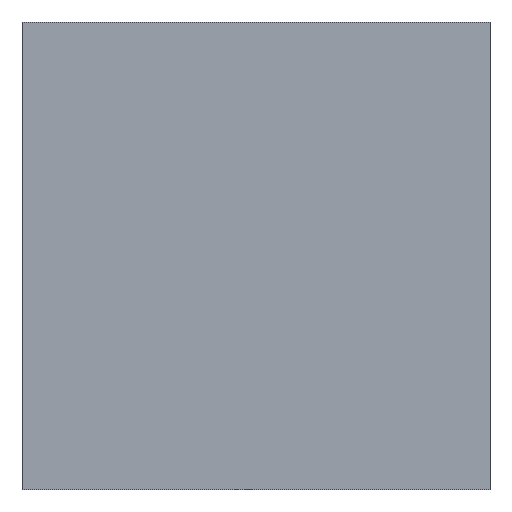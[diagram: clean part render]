
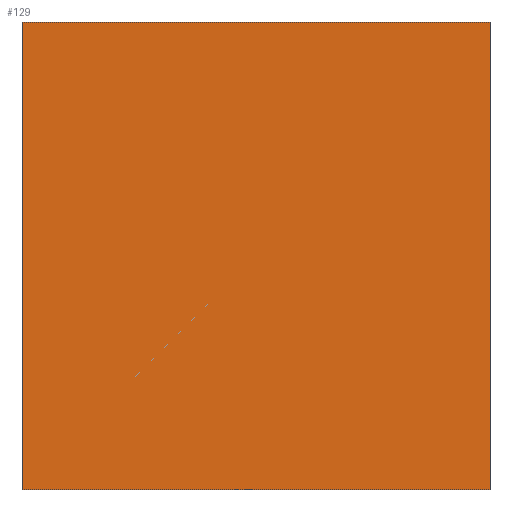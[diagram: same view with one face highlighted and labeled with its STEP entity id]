
A CAD part, left-side view. The second image highlights one B-rep face of the part: STEP entity #129.
In plain terms, the highlighted planar face has unit normal (-1, 0, 0).
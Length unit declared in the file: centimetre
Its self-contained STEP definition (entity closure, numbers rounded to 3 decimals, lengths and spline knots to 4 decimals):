
#20=PLANE('',#153);
#28=FACE_OUTER_BOUND('',#36,.T.);
#36=EDGE_LOOP('',(#110,#111,#112,#113));
#43=LINE('',#206,#56);
#47=LINE('',#215,#60);
#49=LINE('',#218,#62);
#51=LINE('',#221,#64);
#56=VECTOR('',#171,1.);
#60=VECTOR('',#177,1.);
#62=VECTOR('',#181,1.);
#64=VECTOR('',#185,1.);
#72=VERTEX_POINT('',#203);
#73=VERTEX_POINT('',#205);
#76=VERTEX_POINT('',#212);
#77=VERTEX_POINT('',#214);
#83=EDGE_CURVE('',#72,#73,#43,.T.);
#87=EDGE_CURVE('',#76,#77,#47,.T.);
#89=EDGE_CURVE('',#73,#76,#49,.T.);
#91=EDGE_CURVE('',#72,#77,#51,.T.);
#110=ORIENTED_EDGE('',*,*,#91,.T.);
#111=ORIENTED_EDGE('',*,*,#87,.F.);
#112=ORIENTED_EDGE('',*,*,#89,.F.);
#113=ORIENTED_EDGE('',*,*,#83,.F.);
#129=ADVANCED_FACE('',(#28),#20,.F.);
#153=AXIS2_PLACEMENT_3D('',#220,#183,#184);
#171=DIRECTION('',(0.,-1.,0.));
#177=DIRECTION('',(0.,1.,0.));
#181=DIRECTION('',(0.,0.,-1.));
#183=DIRECTION('center_axis',(1.,0.,0.));
#184=DIRECTION('ref_axis',(0.,0.,-1.));
#185=DIRECTION('',(0.,0.,-1.));
#203=CARTESIAN_POINT('',(2.76,0.3,-0.53));
#205=CARTESIAN_POINT('',(2.76,-0.3,-0.53));
#206=CARTESIAN_POINT('',(2.76,0.,-0.53));
#212=CARTESIAN_POINT('',(2.76,-0.3,-1.13));
#214=CARTESIAN_POINT('',(2.76,0.3,-1.13));
#215=CARTESIAN_POINT('',(2.76,0.,-1.13));
#218=CARTESIAN_POINT('',(2.76,-0.3,-0.83));
#220=CARTESIAN_POINT('Origin',(2.76,0.,-0.83));
#221=CARTESIAN_POINT('',(2.76,0.3,-0.83));
